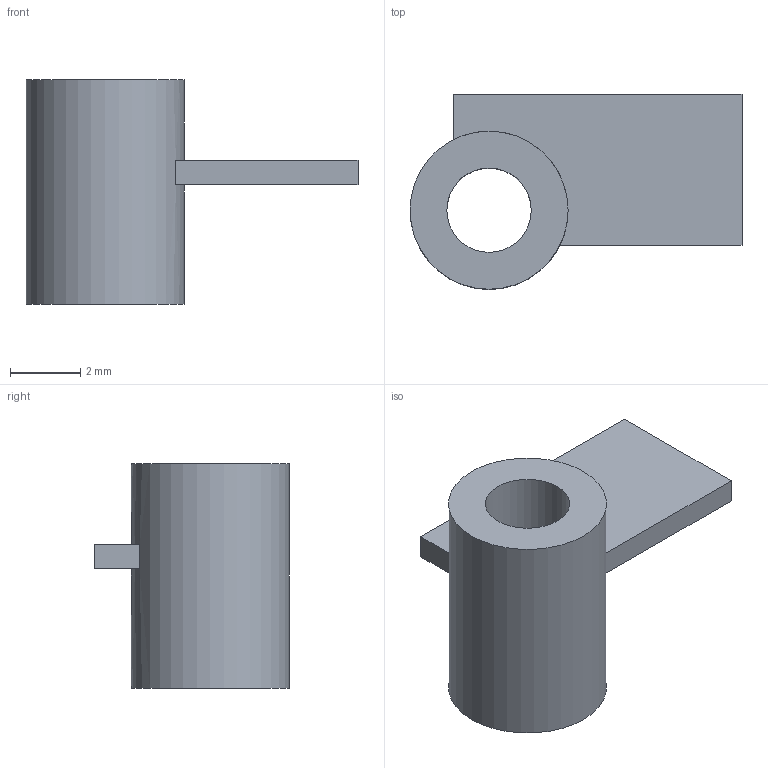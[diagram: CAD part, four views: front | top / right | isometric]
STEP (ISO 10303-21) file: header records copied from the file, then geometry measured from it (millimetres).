
FILE_DESCRIPTION(('Open CASCADE Model'),'2;1');
FILE_NAME('Display support H3','2026-11-18T13:29:45',('Author'),( 'Open CASCADE'),'Open CASCADE STEP processor 7.8','build123d', 'Unknown');
FILE_SCHEMA(('AUTOMOTIVE_DESIGN { 1 0 10303 214 1 1 1 1 }'));
Length unit declared in the file: millimetre
Products named in the file (1): Display support H3
Bounding box: 9.45 x 5.55 x 6.4 mm (x, y, z)
Volume: 91 mm3; surface area: 222.7 mm2
Topology: 1 solids, 1 shells, 10 faces, 24 edges, 16 vertices
Faces by surface type: plane 8, cylinder 2
Full cylindrical faces by diameter (mm): 2.4 x1, 4.5 x1
Entity records: 627 total; most frequent: CARTESIAN_POINT 103, DIRECTION 98, LINE 52, VECTOR 52, ORIENTED_EDGE 48, PCURVE 48, DEFINITIONAL_REPRESENTATION 48, EDGE_CURVE 24
